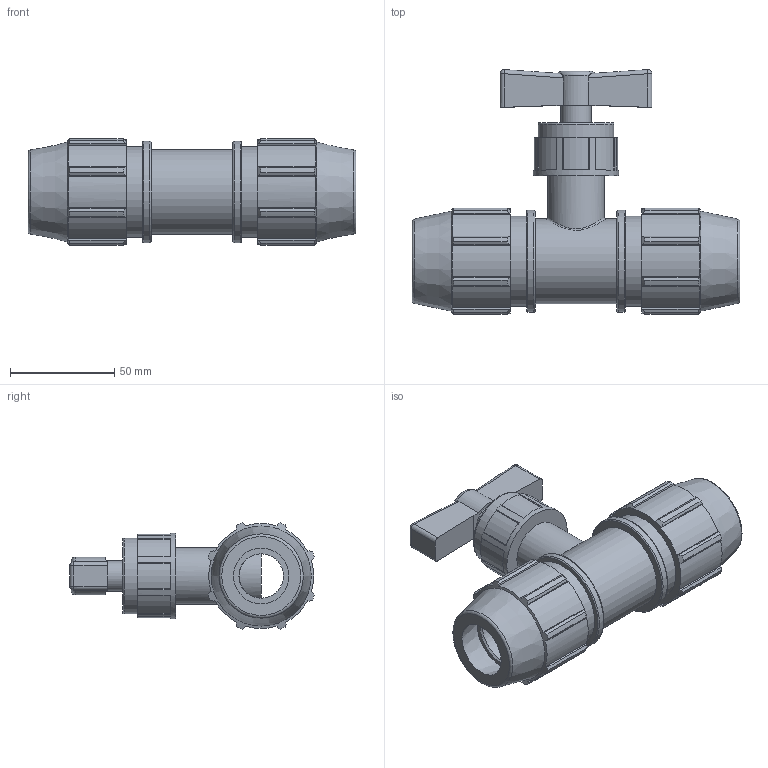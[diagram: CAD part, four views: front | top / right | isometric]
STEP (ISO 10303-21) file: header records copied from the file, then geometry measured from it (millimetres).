
FILE_DESCRIPTION(/* description */ ('PLASSON COMPRESSION STOPTAP 3/4'''' - 3/4'''''),/* implementation_level */ '2;1');
FILE_NAME(/* name */ 'C:\Dropbox\KIMPROJECTS-Inventor 2019\99-16-3568-Processing Inch\ASTM Compression 2021\0340M0\0340M007.ipt.stp',/* time_stamp */ '2021-08-26T12:28:15+03:00',/* author */ ('KIM'),/* organization */ (''),/* preprocessor_version */ 'ST-DEVELOPER v17.2',/* originating_system */ 'Autodesk Inventor 2019',/* authorisation */ '');
FILE_SCHEMA (('AUTOMOTIVE_DESIGN { 1 0 10303 214 3 1 1 }'));
Length unit declared in the file: inch
Products named in the file (1): 0340M007
Bounding box: 156.97 x 117.19 x 50.91 mm (x, y, z)
Volume: 244282.7 mm3; surface area: 53502.4 mm2
Topology: 1 solids, 1 shells, 235 faces, 673 edges, 456 vertices
Faces by surface type: plane 132, cylinder 66, cone 24, torus 8, sphere 4, bspline 1
Full cylindrical faces by diameter (mm): 14.549 x1, 21.28 x1, 26.6 x2, 27.28 x1, 36.373 x1, 40.576 x1, 40.919 x1, 43.282 x2, 48.692 x2
Entity records: 8267 total; most frequent: CARTESIAN_POINT 1775, ORIENTED_EDGE 1348, DIRECTION 1297, EDGE_CURVE 674, AXIS2_PLACEMENT_3D 467, VERTEX_POINT 457, LINE 363, VECTOR 363
